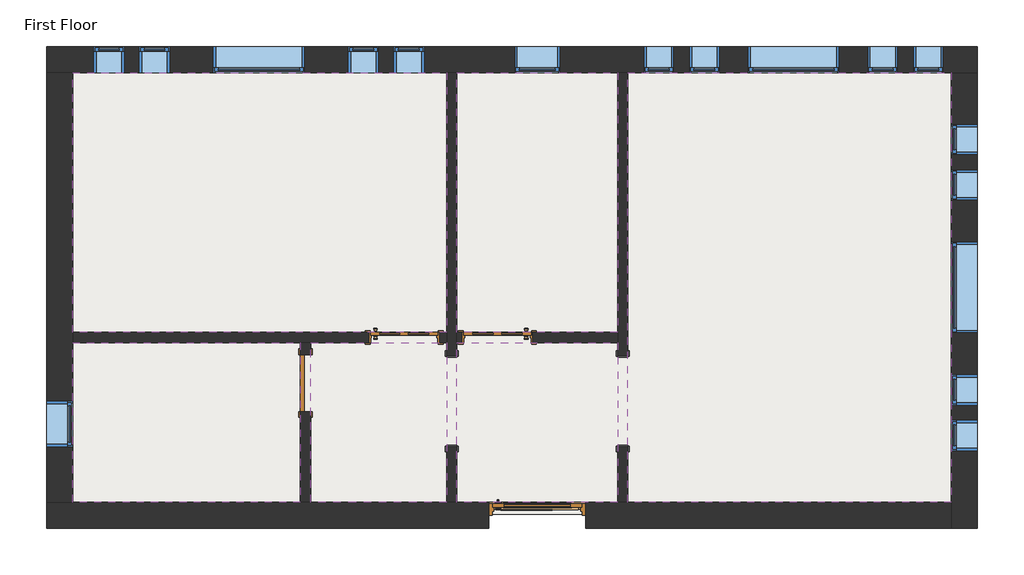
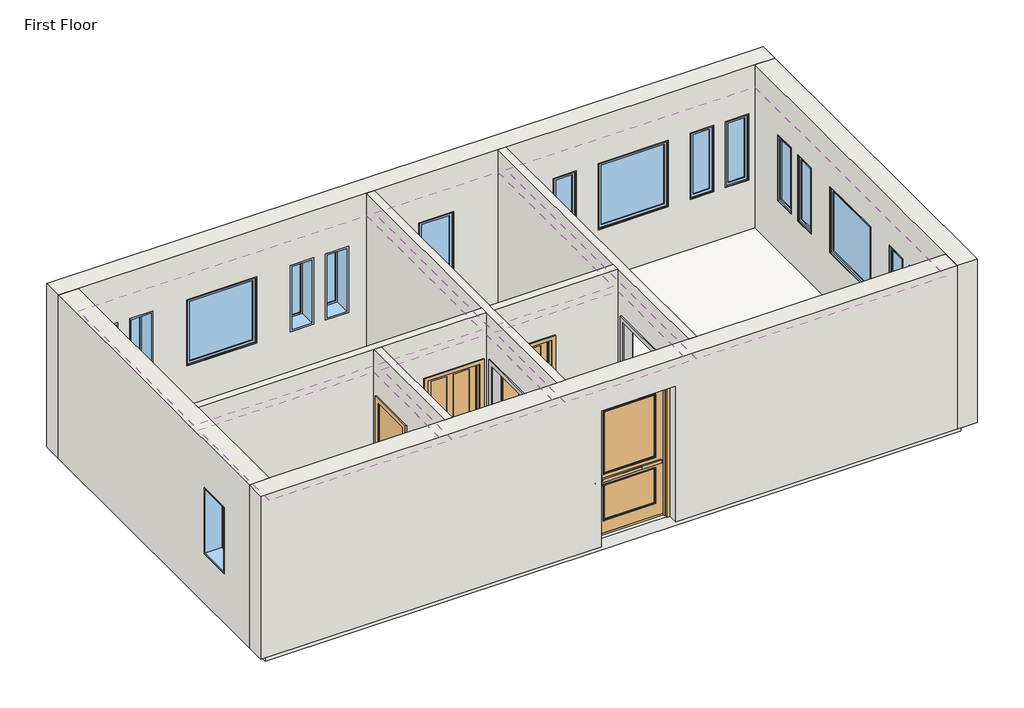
# One storey: 17 windows, 8 walls, 6 coverings, 4 doors, 2 proxies, 1 slab.
"""IFC4 building model written with IfcOpenShell, lengths in millimetres."""

from ifc_helpers import new_model, si_unit, frame, origin, place, context, project, spatial, polyline, outline, extrude, faceted_brep, transform, mapped, element, save
from components import m_passage_opening_cased_1220_x_2134_mm_87a8d9c2, m_door_exterior_single_two_lite_1200_x_2400mm_30e12bfc, m_door_interior_single_4_panel_wood_900_x_2100mm_1f4ed184, m_door_interior_single_4_panel_wood_900_x_2100mm_40914eee, m_single_flush_0762_x_2134mm_0d89e411, m_fixed_0406_x_1220mm_57fee329, m_fixed_0406_x_1220mm_85c28f40, m_fixed_0610_x_1220mm_2c28ef1d, m_fixed_1220_x_1220_e08ff7af

model = new_model("IFC4")

# Units and contexts
model_context = context("Model", 3, world=origin())
ifc_project = project(units=[si_unit("LENGTHUNIT", "METRE", prefix="MILLI")], contexts=[model_context])

# Site, building, storey
site = spatial("IfcSite", under=ifc_project)
building = spatial("IfcBuilding", under=site)
storey = spatial("IfcBuildingStorey", under=building, Name="First Floor", Elevation=0.0)

# Proxies
placement = place(None, origin())
m_passage_opening_cased_1220_x_2134_mm_shape = m_passage_opening_cased_1220_x_2134_mm_87a8d9c2(model_context)
element("IfcBuildingElementProxy", 1, Name="M_Passage Opening-Cased : 1220 x 2134 mm", ObjectType="M_Passage Opening-Cased : 1220 x 2134 mm", at=placement, inside=storey, context=model_context, shape_type="MappedRepresentation", body=[
    mapped(m_passage_opening_cased_1220_x_2134_mm_shape, transform((-10841.0930086, 9462.255705, 0.0), x_axis=(0.0, 1.0, 0.0), y_axis=(-1.0, 0.0, 0.0), z_axis=(0.0, 0.0, 1.0))),
])
element("IfcBuildingElementProxy", 2, Name="M_Passage Opening-Cased : 1220 x 2134 mm", ObjectType="M_Passage Opening-Cased : 1220 x 2134 mm", at=placement, inside=storey, context=model_context, shape_type="MappedRepresentation", body=[
    mapped(m_passage_opening_cased_1220_x_2134_mm_shape, transform((-13127.0930086, 9445.8783915, 0.0), x_axis=(0.0, -1.0, 0.0), y_axis=(1.0, 0.0, 0.0), z_axis=(0.0, 0.0, 1.0))),
])

# Coverings
element("IfcCovering", 3, ObjectType="Plain", at=placement, inside=storey, context=model_context, shape_type="SweptSolid", body=[
    extrude(outline(polyline([(-18201.8430086, 13851.0670483), (-13194.8430086, 13851.0670483), (-13194.8430086, 10374.5670483), (-18201.8430086, 10374.5670483), (-18201.8430086, 13851.0670483)])), frame((0.0, 0.0, 2590.0), z_axis=(0.0, 0.0, 1.0), x_axis=(1.0, 0.0, 0.0)), (0.0, 0.0, 1.0), 57.0),
])
element("IfcCovering", 4, ObjectType="Plain", at=placement, inside=storey, context=model_context, shape_type="SweptSolid", body=[
    extrude(outline(polyline([(-13059.3430086, 10374.5670483), (-13059.3430086, 13851.0670483), (-10908.8430086, 13851.0670483), (-10908.8430086, 10374.5670483), (-13059.3430086, 10374.5670483)])), frame((0.0, 0.0, 2590.0), z_axis=(0.0, 0.0, 1.0), x_axis=(1.0, 0.0, 0.0)), (0.0, 0.0, 1.0), 57.0),
])
element("IfcCovering", 5, ObjectType="Plain", at=placement, inside=storey, context=model_context, shape_type="SweptSolid", body=[
    extrude(outline(polyline([(-10773.3430086, 8105.0670483), (-10773.3430086, 13851.0670483), (-6444.0930086, 13851.0670483), (-6444.0930086, 8105.0670483), (-10773.3430086, 8105.0670483)])), frame((0.0, 0.0, 2590.0), z_axis=(0.0, 0.0, 1.0), x_axis=(1.0, 0.0, 0.0)), (0.0, 0.0, 1.0), 57.0),
])
element("IfcCovering", 6, ObjectType="Plain", at=placement, inside=storey, context=model_context, shape_type="SweptSolid", body=[
    extrude(outline(polyline([(-10908.8430086, 8105.0670483), (-13059.3430086, 8105.0670483), (-13059.3430086, 10239.0670483), (-10908.8430086, 10239.0670483), (-10908.8430086, 8105.0670483)])), frame((0.0, 0.0, 2590.0), z_axis=(0.0, 0.0, 1.0), x_axis=(1.0, 0.0, 0.0)), (0.0, 0.0, 1.0), 57.0),
])
element("IfcCovering", 7, ObjectType="Plain", at=placement, inside=storey, context=model_context, shape_type="SweptSolid", body=[
    extrude(outline(polyline([(-13194.8430086, 8105.0670483), (-15018.3430086, 8105.0670483), (-15018.3430086, 10239.0670483), (-13194.8430086, 10239.0670483), (-13194.8430086, 8105.0670483)])), frame((0.0, 0.0, 2590.0), z_axis=(0.0, 0.0, 1.0), x_axis=(1.0, 0.0, 0.0)), (0.0, 0.0, 1.0), 57.0),
])
element("IfcCovering", 8, ObjectType="Plain", at=placement, inside=storey, context=model_context, shape_type="SweptSolid", body=[
    extrude(outline(polyline([(-15153.8430086, 10239.0670483), (-15153.8430086, 8105.0670483), (-18201.8430086, 8105.0670483), (-18201.8430086, 10239.0670483), (-15153.8430086, 10239.0670483)])), frame((0.0, 0.0, 2590.0), z_axis=(0.0, 0.0, 1.0), x_axis=(1.0, 0.0, 0.0)), (0.0, 0.0, 1.0), 57.0),
])

# Doors
m_door_exterior_single_two_lite_1200_x_2400mm_shape = m_door_exterior_single_two_lite_1200_x_2400mm_30e12bfc(model_context)
element("IfcDoor", 9, ObjectType="M_Door-Exterior-Single-Two_Lite : 1200 x 2400mm", at=placement, inside=storey, context=model_context, shape_type="MappedRepresentation", body=[
    mapped(m_door_exterior_single_two_lite_1200_x_2400mm_shape, transform((-11984.0930086, 7923.7170483, 0.0), x_axis=(1.0, 0.0, 0.0), y_axis=(0.0, 1.0, 0.0), z_axis=(0.0, 0.0, 1.0))),
])
m_door_interior_single_4_panel_wood_900_x_2100mm_shape = m_door_interior_single_4_panel_wood_900_x_2100mm_1f4ed184(model_context)
element("IfcDoor", 10, ObjectType="M_Door-Interior-Single-4_Panel-Wood : 900 x 2100mm", at=placement, inside=storey, context=model_context, shape_type="MappedRepresentation", body=[
    mapped(m_door_interior_single_4_panel_wood_900_x_2100mm_shape, transform((-12518.0930086, 10309.9920483, 0.0), x_axis=(-1.0, 0.0, 0.0), y_axis=(0.0, -1.0, 0.0), z_axis=(0.0, 0.0, 1.0))),
])
m_door_interior_single_4_panel_wood_900_x_2100mm_2_shape = m_door_interior_single_4_panel_wood_900_x_2100mm_40914eee(model_context)
element("IfcDoor", 11, ObjectType="M_Door-Interior-Single-4_Panel-Wood : 900 x 2100mm", at=placement, inside=storey, context=model_context, shape_type="MappedRepresentation", body=[
    mapped(m_door_interior_single_4_panel_wood_900_x_2100mm_2_shape, transform((-13766.0930086, 10309.9920483, 0.0), x_axis=(1.0, 0.0, 0.0), y_axis=(0.0, 1.0, 0.0), z_axis=(0.0, 0.0, 1.0))),
])
m_single_flush_0762_x_2134mm_shape = m_single_flush_0762_x_2134mm_0d89e411(model_context)
element("IfcDoor", 12, ObjectType="M_Single-Flush : 0762 x 2134mm", at=placement, inside=storey, context=model_context, shape_type="MappedRepresentation", body=[
    mapped(m_single_flush_0762_x_2134mm_shape, transform((-15086.0930086, 9696.8170483, 0.0), x_axis=(0.0, 1.0, 0.0), y_axis=(-1.0, 0.0, 0.0), z_axis=(0.0, 0.0, 1.0))),
])

# Slab
element("IfcSlab", 13, ObjectType="160mm Concrete With 50mm Metal Deck", at=placement, inside=storey, context=model_context, shape_type="SweptSolid", body=[
    extrude(outline(polyline([(-6279.0930086, 14016.0670483), (-6279.0930086, 7940.0670483), (-18366.8430086, 7940.0670483), (-18366.8430086, 14016.0670483), (-6279.0930086, 14016.0670483)])), frame((0.0, 0.0, -210.0), z_axis=(0.0, 0.0, 1.0), x_axis=(1.0, 0.0, 0.0)), (0.0, 0.0, 1.0), 210.0),
])

# Walls
element("IfcWall", 14, ObjectType="Exterior - Brick on Mtl. Stud", at=placement, inside=storey, context=model_context, shape_type="Brep", body=[
    faceted_brep([(-18551.8430086, 13851.0670483, 0.0), (-18366.8430086, 13851.0670483, 0.0), (-18201.8430086, 13851.0670483, 0.0), (-13194.8430086, 13851.0670483, 0.0), (-13059.3430086, 13851.0670483, 0.0), (-10908.8430086, 13851.0670483, 0.0), (-10773.3430086, 13851.0670483, 0.0), (-6444.0930086, 13851.0670483, 0.0), (-6279.0930086, 13851.0670483, 0.0), (-6094.0930086, 13851.0670483, 0.0), (-6094.0930086, 13851.0670483, 3000.0), (-6444.0930086, 13851.0670483, 3000.0), (-10773.3430086, 13851.0670483, 3000.0), (-10908.8430086, 13851.0670483, 3000.0), (-13059.3430086, 13851.0670483, 3000.0), (-13194.8430086, 13851.0670483, 3000.0), (-18201.8430086, 13851.0670483, 3000.0), (-18551.8430086, 13851.0670483, 3000.0), (-11679.0930086, 13851.0670483, 915.0), (-12289.0930086, 13851.0670483, 915.0), (-12289.0930086, 13851.0670483, 2135.0), (-11679.0930086, 13851.0670483, 2135.0), (-15099.8430086, 13851.0670483, 915.0), (-16319.8430086, 13851.0670483, 915.0), (-16319.8430086, 13851.0670483, 2135.0), (-15099.8430086, 13851.0670483, 2135.0), (-7945.0930086, 13851.0670483, 915.0), (-9165.0930086, 13851.0670483, 915.0), (-9165.0930086, 13851.0670483, 2135.0), (-7945.0930086, 13851.0670483, 2135.0), (-17919.4430086, 13851.0670483, 915.0), (-17919.4430086, 13851.0670483, 2135.0), (-17513.4430086, 13851.0670483, 2135.0), (-17513.4430086, 13851.0670483, 915.0), (-17309.8430086, 13851.0670483, 915.0), (-17309.8430086, 13851.0670483, 2135.0), (-16903.8430086, 13851.0670483, 2135.0), (-16903.8430086, 13851.0670483, 915.0), (-14109.8430086, 13851.0670483, 915.0), (-14515.8430086, 13851.0670483, 915.0), (-14515.8430086, 13851.0670483, 2135.0), (-14109.8430086, 13851.0670483, 2135.0), (-13500.2430086, 13851.0670483, 915.0), (-13906.2430086, 13851.0670483, 915.0), (-13906.2430086, 13851.0670483, 2135.0), (-13500.2430086, 13851.0670483, 2135.0), (-10155.0930086, 13851.0670483, 915.0), (-10561.0930086, 13851.0670483, 915.0), (-10561.0930086, 13851.0670483, 2135.0), (-10155.0930086, 13851.0670483, 2135.0), (-9545.4930086, 13851.0670483, 915.0), (-9951.4930086, 13851.0670483, 915.0), (-9951.4930086, 13851.0670483, 2135.0), (-9545.4930086, 13851.0670483, 2135.0), (-6955.0930086, 13851.0670483, 915.0), (-6955.0930086, 13851.0670483, 2135.0), (-6549.0930086, 13851.0670483, 2135.0), (-6549.0930086, 13851.0670483, 915.0), (-7564.6930086, 13851.0670483, 915.0), (-7564.6930086, 13851.0670483, 2135.0), (-7158.6930086, 13851.0670483, 2135.0), (-7158.6930086, 13851.0670483, 915.0), (-18551.8430086, 14201.0670483, 0.0), (-18551.8430086, 14201.0670483, 3000.0), (-6094.0930086, 14201.0670483, 3000.0), (-6094.0930086, 14201.0670483, 0.0), (-6279.0930086, 14201.0670483, 0.0), (-18366.8430086, 14201.0670483, 0.0), (-11679.0930086, 14201.0670483, 915.0), (-11679.0930086, 14201.0670483, 2135.0), (-12289.0930086, 14201.0670483, 2135.0), (-12289.0930086, 14201.0670483, 915.0), (-15099.8430086, 14201.0670483, 915.0), (-15099.8430086, 14201.0670483, 2135.0), (-16319.8430086, 14201.0670483, 2135.0), (-16319.8430086, 14201.0670483, 915.0), (-7945.0930086, 14201.0670483, 915.0), (-7945.0930086, 14201.0670483, 2135.0), (-9165.0930086, 14201.0670483, 2135.0), (-9165.0930086, 14201.0670483, 915.0), (-17919.4430086, 14201.0670483, 915.0), (-17513.4430086, 14201.0670483, 915.0), (-17513.4430086, 14201.0670483, 2135.0), (-17919.4430086, 14201.0670483, 2135.0), (-17309.8430086, 14201.0670483, 915.0), (-16903.8430086, 14201.0670483, 915.0), (-16903.8430086, 14201.0670483, 2135.0), (-17309.8430086, 14201.0670483, 2135.0), (-14109.8430086, 14201.0670483, 915.0), (-14109.8430086, 14201.0670483, 2135.0), (-14515.8430086, 14201.0670483, 2135.0), (-14515.8430086, 14201.0670483, 915.0), (-13500.2430086, 14201.0670483, 915.0), (-13500.2430086, 14201.0670483, 2135.0), (-13906.2430086, 14201.0670483, 2135.0), (-13906.2430086, 14201.0670483, 915.0), (-10155.0930086, 14201.0670483, 915.0), (-10155.0930086, 14201.0670483, 2135.0), (-10561.0930086, 14201.0670483, 2135.0), (-10561.0930086, 14201.0670483, 915.0), (-9545.4930086, 14201.0670483, 915.0), (-9545.4930086, 14201.0670483, 2135.0), (-9951.4930086, 14201.0670483, 2135.0), (-9951.4930086, 14201.0670483, 915.0), (-6955.0930086, 14201.0670483, 915.0), (-6549.0930086, 14201.0670483, 915.0), (-6549.0930086, 14201.0670483, 2135.0), (-6955.0930086, 14201.0670483, 2135.0), (-7564.6930086, 14201.0670483, 915.0), (-7158.6930086, 14201.0670483, 915.0), (-7158.6930086, 14201.0670483, 2135.0), (-7564.6930086, 14201.0670483, 2135.0), (-6094.0930086, 14016.0670483, 0.0), (-18551.8430086, 14016.0670483, 0.0), (-18366.8430086, 14016.0670483, 0.0), (-6279.0930086, 14016.0670483, 0.0)], [[[0, 1, 2, 3, 4, 5, 6, 7, 8, 9, 10, 11, 12, 13, 14, 15, 16, 17], [18, 19, 20, 21], [22, 23, 24, 25], [26, 27, 28, 29], [30, 31, 32, 33], [34, 35, 36, 37], [38, 39, 40, 41], [42, 43, 44, 45], [46, 47, 48, 49], [50, 51, 52, 53], [54, 55, 56, 57], [58, 59, 60, 61]], [[62, 63, 64, 65, 66, 67], [68, 69, 70, 71], [72, 73, 74, 75], [76, 77, 78, 79], [80, 81, 82, 83], [84, 85, 86, 87], [88, 89, 90, 91], [92, 93, 94, 95], [96, 97, 98, 99], [100, 101, 102, 103], [104, 105, 106, 107], [108, 109, 110, 111]], [[17, 16, 15, 14, 13, 12, 11, 10, 64, 63]], [[10, 9, 112, 65, 64]], [[0, 17, 63, 62, 113]], [[69, 68, 18, 21]], [[70, 69, 21, 20]], [[71, 70, 20, 19]], [[68, 71, 19, 18]], [[73, 72, 22, 25]], [[74, 73, 25, 24]], [[75, 74, 24, 23]], [[72, 75, 23, 22]], [[77, 76, 26, 29]], [[78, 77, 29, 28]], [[79, 78, 28, 27]], [[76, 79, 27, 26]], [[31, 30, 80, 83]], [[32, 31, 83, 82]], [[33, 32, 82, 81]], [[30, 33, 81, 80]], [[35, 34, 84, 87]], [[36, 35, 87, 86]], [[37, 36, 86, 85]], [[34, 37, 85, 84]], [[89, 88, 38, 41]], [[90, 89, 41, 40]], [[91, 90, 40, 39]], [[88, 91, 39, 38]], [[93, 92, 42, 45]], [[94, 93, 45, 44]], [[95, 94, 44, 43]], [[92, 95, 43, 42]], [[97, 96, 46, 49]], [[98, 97, 49, 48]], [[99, 98, 48, 47]], [[96, 99, 47, 46]], [[101, 100, 50, 53]], [[102, 101, 53, 52]], [[103, 102, 52, 51]], [[100, 103, 51, 50]], [[55, 54, 104, 107]], [[56, 55, 107, 106]], [[57, 56, 106, 105]], [[54, 57, 105, 104]], [[59, 58, 108, 111]], [[60, 59, 111, 110]], [[61, 60, 110, 109]], [[58, 61, 109, 108]], [[1, 0, 113, 114]], [[113, 62, 67, 114]], [[9, 8, 115, 112]], [[67, 66, 115, 114]], [[66, 65, 112, 115]], [[8, 7, 6, 5, 4, 3, 2, 1, 114, 115]]]),
])
element("IfcWall", 15, ObjectType="Exterior - Brick on Mtl. Stud", at=placement, inside=storey, context=model_context, shape_type="Brep", body=[
    faceted_brep([(-6444.0930086, 13851.0670483, 0.0), (-6444.0930086, 8105.0670483, 0.0), (-6444.0930086, 7940.0670483, 0.0), (-6444.0930086, 7755.0670483, 0.0), (-6444.0930086, 7755.0670483, 3000.0), (-6444.0930086, 8105.0670483, 3000.0), (-6444.0930086, 13851.0670483, 3000.0), (-6444.0930086, 10368.0670483, 915.0), (-6444.0930086, 11588.0670483, 915.0), (-6444.0930086, 11588.0670483, 2135.0), (-6444.0930086, 10368.0670483, 2135.0), (-6444.0930086, 12756.2670483, 915.0), (-6444.0930086, 13162.2670483, 915.0), (-6444.0930086, 13162.2670483, 2135.0), (-6444.0930086, 12756.2670483, 2135.0), (-6444.0930086, 12146.6670483, 915.0), (-6444.0930086, 12552.6670483, 915.0), (-6444.0930086, 12552.6670483, 2135.0), (-6444.0930086, 12146.6670483, 2135.0), (-6444.0930086, 9199.8670483, 915.0), (-6444.0930086, 9199.8670483, 2135.0), (-6444.0930086, 8793.8670483, 2135.0), (-6444.0930086, 8793.8670483, 915.0), (-6444.0930086, 9809.4670483, 915.0), (-6444.0930086, 9809.4670483, 2135.0), (-6444.0930086, 9403.4670483, 2135.0), (-6444.0930086, 9403.4670483, 915.0), (-6094.0930086, 13851.0670483, 0.0), (-6094.0930086, 13851.0670483, 3000.0), (-6094.0930086, 7755.0670483, 3000.0), (-6094.0930086, 7755.0670483, 0.0), (-6094.0930086, 7940.0670483, 0.0), (-6094.0930086, 10368.0670483, 915.0), (-6094.0930086, 10368.0670483, 2135.0), (-6094.0930086, 11588.0670483, 2135.0), (-6094.0930086, 11588.0670483, 915.0), (-6094.0930086, 12756.2670483, 915.0), (-6094.0930086, 12756.2670483, 2135.0), (-6094.0930086, 13162.2670483, 2135.0), (-6094.0930086, 13162.2670483, 915.0), (-6094.0930086, 12146.6670483, 915.0), (-6094.0930086, 12146.6670483, 2135.0), (-6094.0930086, 12552.6670483, 2135.0), (-6094.0930086, 12552.6670483, 915.0), (-6094.0930086, 9199.8670483, 915.0), (-6094.0930086, 8793.8670483, 915.0), (-6094.0930086, 8793.8670483, 2135.0), (-6094.0930086, 9199.8670483, 2135.0), (-6094.0930086, 9809.4670483, 915.0), (-6094.0930086, 9403.4670483, 915.0), (-6094.0930086, 9403.4670483, 2135.0), (-6094.0930086, 9809.4670483, 2135.0), (-6279.0930086, 13851.0670483, 0.0), (-6279.0930086, 7755.0670483, 0.0), (-6279.0930086, 7940.0670483, 0.0)], [[[0, 1, 2, 3, 4, 5, 6], [7, 8, 9, 10], [11, 12, 13, 14], [15, 16, 17, 18], [19, 20, 21, 22], [23, 24, 25, 26]], [[27, 28, 29, 30, 31], [32, 33, 34, 35], [36, 37, 38, 39], [40, 41, 42, 43], [44, 45, 46, 47], [48, 49, 50, 51]], [[6, 5, 4, 29, 28]], [[0, 6, 28, 27, 52]], [[4, 3, 53, 30, 29]], [[33, 32, 7, 10]], [[34, 33, 10, 9]], [[35, 34, 9, 8]], [[32, 35, 8, 7]], [[37, 36, 11, 14]], [[38, 37, 14, 13]], [[39, 38, 13, 12]], [[36, 39, 12, 11]], [[41, 40, 15, 18]], [[42, 41, 18, 17]], [[43, 42, 17, 16]], [[40, 43, 16, 15]], [[20, 19, 44, 47]], [[21, 20, 47, 46]], [[22, 21, 46, 45]], [[19, 22, 45, 44]], [[24, 23, 48, 51]], [[25, 24, 51, 50]], [[26, 25, 50, 49]], [[23, 26, 49, 48]], [[52, 27, 31, 54]], [[3, 2, 54, 53]], [[54, 31, 30, 53]], [[2, 1, 0, 52, 54]]]),
])
element("IfcWall", 16, ObjectType="Exterior - Brick on Mtl. Stud", at=placement, inside=storey, context=model_context, shape_type="Brep", body=[
    faceted_brep([(-18551.8430086, 8105.0670483, 3000.0), (-18201.8430086, 8105.0670483, 3000.0), (-15153.8430086, 8105.0670483, 3000.0), (-15018.3430086, 8105.0670483, 3000.0), (-13194.8430086, 8105.0670483, 3000.0), (-13059.3430086, 8105.0670483, 3000.0), (-10908.8430086, 8105.0670483, 3000.0), (-10773.3430086, 8105.0670483, 3000.0), (-6444.0930086, 8105.0670483, 3000.0), (-6444.0930086, 8105.0670483, 0.0), (-10773.3430086, 8105.0670483, 0.0), (-10908.8430086, 8105.0670483, 0.0), (-11334.0930086, 8105.0670483, 0.0), (-11334.0930086, 8105.0670483, 2500.0), (-12634.0930086, 8105.0670483, 2500.0), (-12634.0930086, 8105.0670483, 0.0), (-13059.3430086, 8105.0670483, 0.0), (-13194.8430086, 8105.0670483, 0.0), (-15018.3430086, 8105.0670483, 0.0), (-15153.8430086, 8105.0670483, 0.0), (-18201.8430086, 8105.0670483, 0.0), (-18551.8430086, 8105.0670483, 0.0), (-6444.0930086, 7755.0670483, 3000.0), (-18551.8430086, 7755.0670483, 3000.0), (-18551.8430086, 7755.0670483, 0.0), (-12634.0930086, 7755.0670483, 0.0), (-12634.0930086, 7755.0670483, 2500.0), (-11334.0930086, 7755.0670483, 2500.0), (-11334.0930086, 7755.0670483, 0.0), (-6444.0930086, 7755.0670483, 0.0)], [[[0, 1, 2, 3, 4, 5, 6, 7, 8, 9, 10, 11, 12, 13, 14, 15, 16, 17, 18, 19, 20, 21]], [[22, 23, 24, 25, 26, 27, 28, 29]], [[9, 29, 28, 12, 11, 10]], [[24, 21, 20, 19, 18, 17, 16, 15, 25]], [[8, 7, 6, 5, 4, 3, 2, 1, 0, 23, 22]], [[9, 8, 22, 29]], [[0, 21, 24, 23]], [[27, 13, 12, 28]], [[13, 27, 26, 14]], [[14, 26, 25, 15]]]),
])
element("IfcWall", 17, ObjectType="Exterior - Brick on Mtl. Stud", at=placement, inside=storey, context=model_context, shape_type="Brep", body=[
    faceted_brep([(-18201.8430086, 8105.0670483, 0.0), (-18201.8430086, 10239.0670483, 0.0), (-18201.8430086, 10374.5670483, 0.0), (-18201.8430086, 13851.0670483, 0.0), (-18201.8430086, 13851.0670483, 3000.0), (-18201.8430086, 10374.5670483, 3000.0), (-18201.8430086, 10239.0670483, 3000.0), (-18201.8430086, 8105.0670483, 3000.0), (-18201.8430086, 9455.0670483, 915.0), (-18201.8430086, 8845.0670483, 915.0), (-18201.8430086, 8845.0670483, 2135.0), (-18201.8430086, 9455.0670483, 2135.0), (-18551.8430086, 8105.0670483, 0.0), (-18551.8430086, 8105.0670483, 3000.0), (-18551.8430086, 13851.0670483, 3000.0), (-18551.8430086, 13851.0670483, 0.0), (-18551.8430086, 9455.0670483, 915.0), (-18551.8430086, 9455.0670483, 2135.0), (-18551.8430086, 8845.0670483, 2135.0), (-18551.8430086, 8845.0670483, 915.0), (-18366.8430086, 8105.0670483, 0.0), (-18366.8430086, 13851.0670483, 0.0)], [[[0, 1, 2, 3, 4, 5, 6, 7], [8, 9, 10, 11]], [[12, 13, 14, 15], [16, 17, 18, 19]], [[7, 6, 5, 4, 14, 13]], [[0, 7, 13, 12, 20]], [[4, 3, 21, 15, 14]], [[17, 16, 8, 11]], [[18, 17, 11, 10]], [[19, 18, 10, 9]], [[16, 19, 9, 8]], [[20, 12, 15, 21]], [[3, 2, 1, 0, 20, 21]]]),
])
element("IfcWall", 18, ObjectType="Interior - 135mm Partition (2-hr)", at=placement, inside=storey, context=model_context, shape_type="Brep", body=[
    faceted_brep([(-10908.8430086, 13851.0670483, 0.0), (-10908.8430086, 10374.5670483, 0.0), (-10908.8430086, 10239.0670483, 0.0), (-10908.8430086, 10064.0670483, 0.0), (-10908.8430086, 10064.0670483, 2134.0), (-10908.8430086, 8844.0670483, 2134.0), (-10908.8430086, 8844.0670483, 0.0), (-10908.8430086, 8105.0670483, 0.0), (-10908.8430086, 8105.0670483, 3000.0), (-10908.8430086, 10239.0670483, 3000.0), (-10908.8430086, 10374.5670483, 3000.0), (-10908.8430086, 13851.0670483, 3000.0), (-10773.3430086, 10064.0670483, 2134.0), (-10773.3430086, 10064.0670483, 0.0), (-10773.3430086, 13851.0670483, 0.0), (-10773.3430086, 13851.0670483, 3000.0), (-10773.3430086, 8105.0670483, 3000.0), (-10773.3430086, 8105.0670483, 0.0), (-10773.3430086, 8844.0670483, 0.0), (-10773.3430086, 8844.0670483, 2134.0)], [[[0, 1, 2, 3, 4, 5, 6, 7, 8, 9, 10, 11]], [[12, 13, 14, 15, 16, 17, 18, 19]], [[18, 17, 7, 6]], [[14, 13, 3, 2, 1, 0]], [[11, 10, 9, 8, 16, 15]], [[0, 11, 15, 14]], [[8, 7, 17, 16]], [[6, 5, 19, 18]], [[4, 3, 13, 12]], [[5, 4, 12, 19]]]),
])
element("IfcWall", 19, ObjectType="Interior - 135mm Partition (2-hr)", at=placement, inside=storey, context=model_context, shape_type="Brep", body=[
    faceted_brep([(-13194.8430086, 8105.0670483, 3000.0), (-13194.8430086, 10239.0670483, 3000.0), (-13194.8430086, 10374.5670483, 3000.0), (-13194.8430086, 13851.0670483, 3000.0), (-13194.8430086, 13851.0670483, 0.0), (-13194.8430086, 10374.5670483, 0.0), (-13194.8430086, 10239.0670483, 0.0), (-13194.8430086, 10064.0670483, 0.0), (-13194.8430086, 10064.0670483, 2134.0), (-13194.8430086, 8844.0670483, 2134.0), (-13194.8430086, 8844.0670483, 0.0), (-13194.8430086, 8105.0670483, 0.0), (-13059.3430086, 13851.0670483, 3000.0), (-13059.3430086, 10374.5670483, 3000.0), (-13059.3430086, 10239.0670483, 3000.0), (-13059.3430086, 8105.0670483, 3000.0), (-13059.3430086, 8105.0670483, 0.0), (-13059.3430086, 8844.0670483, 0.0), (-13059.3430086, 8844.0670483, 2134.0), (-13059.3430086, 10064.0670483, 2134.0), (-13059.3430086, 10064.0670483, 0.0), (-13059.3430086, 10239.0670483, 0.0), (-13059.3430086, 10374.5670483, 0.0), (-13059.3430086, 13851.0670483, 0.0)], [[[0, 1, 2, 3, 4, 5, 6, 7, 8, 9, 10, 11]], [[12, 13, 14, 15, 16, 17, 18, 19, 20, 21, 22, 23]], [[4, 23, 22, 21, 20, 7, 6, 5]], [[16, 11, 10, 17]], [[3, 2, 1, 0, 15, 14, 13, 12]], [[4, 3, 12, 23]], [[0, 11, 16, 15]], [[19, 8, 7, 20]], [[9, 18, 17, 10]], [[8, 19, 18, 9]]]),
])
element("IfcWall", 20, ObjectType="Interior - 135mm Partition (2-hr)", at=placement, inside=storey, context=model_context, shape_type="Brep", body=[
    faceted_brep([(-18201.8430086, 10239.0670483, 3000.0), (-18201.8430086, 10239.0670483, 0.0), (-15153.8430086, 10239.0670483, 0.0), (-15018.3430086, 10239.0670483, 0.0), (-14241.0930086, 10239.0670483, 0.0), (-14241.0930086, 10239.0670483, 2125.0), (-13291.0930086, 10239.0670483, 2125.0), (-13291.0930086, 10239.0670483, 0.0), (-13194.8430086, 10239.0670483, 0.0), (-13194.8430086, 10239.0670483, 3000.0), (-15018.3430086, 10239.0670483, 3000.0), (-15153.8430086, 10239.0670483, 3000.0), (-18201.8430086, 10374.5670483, 0.0), (-18201.8430086, 10374.5670483, 3000.0), (-13194.8430086, 10374.5670483, 3000.0), (-13194.8430086, 10374.5670483, 0.0), (-13291.0930086, 10374.5670483, 0.0), (-13291.0930086, 10374.5670483, 2125.0), (-14241.0930086, 10374.5670483, 2125.0), (-14241.0930086, 10374.5670483, 0.0)], [[[0, 1, 2, 3, 4, 5, 6, 7, 8, 9, 10, 11]], [[12, 13, 14, 15, 16, 17, 18, 19]], [[1, 12, 19, 4, 3, 2]], [[7, 16, 15, 8]], [[13, 0, 11, 10, 9, 14]], [[1, 0, 13, 12]], [[9, 8, 15, 14]], [[6, 17, 16, 7]], [[17, 6, 5, 18]], [[18, 5, 4, 19]]]),
    faceted_brep([(-10908.8430086, 10239.0670483, 0.0), (-10908.8430086, 10239.0670483, 3000.0), (-13059.3430086, 10239.0670483, 3000.0), (-13059.3430086, 10239.0670483, 0.0), (-12993.0930086, 10239.0670483, 0.0), (-12993.0930086, 10239.0670483, 2125.0), (-12043.0930086, 10239.0670483, 2125.0), (-12043.0930086, 10239.0670483, 0.0), (-10908.8430086, 10374.5670483, 3000.0), (-10908.8430086, 10374.5670483, 0.0), (-12043.0930086, 10374.5670483, 0.0), (-12043.0930086, 10374.5670483, 2125.0), (-12993.0930086, 10374.5670483, 2125.0), (-12993.0930086, 10374.5670483, 0.0), (-13059.3430086, 10374.5670483, 0.0), (-13059.3430086, 10374.5670483, 3000.0)], [[[0, 1, 2, 3, 4, 5, 6, 7]], [[8, 9, 10, 11, 12, 13, 14, 15]], [[9, 0, 7, 10]], [[13, 4, 3, 14]], [[1, 8, 15, 2]], [[1, 0, 9, 8]], [[3, 2, 15, 14]], [[5, 4, 13, 12]], [[6, 5, 12, 11]], [[7, 6, 11, 10]]]),
])
element("IfcWall", 21, ObjectType="Interior - 135mm Partition (2-hr)", at=placement, inside=storey, context=model_context, shape_type="SweptSolid", body=[
    extrude(outline(polyline([(10239.0670483, 0.0), (10077.8170483, 0.0), (10077.8170483, 2134.0), (9315.8170483, 2134.0), (9315.8170483, 0.0), (8105.0670483, 0.0), (8105.0670483, 3000.0), (10239.0670483, 3000.0), (10239.0670483, 0.0)])), frame((-15153.8430086, 0.0, 0.0), z_axis=(1.0, 0.0, 0.0), x_axis=(0.0, 1.0, 0.0)), (0.0, 0.0, 1.0), 135.5),
])

# Windows
m_fixed_0406_x_1220mm_shape = m_fixed_0406_x_1220mm_57fee329(model_context)
element("IfcWindow", 22, ObjectType="M_Fixed : 0406 x 1220mm", at=placement, inside=storey, context=model_context, shape_type="MappedRepresentation", body=[
    mapped(m_fixed_0406_x_1220mm_shape, transform((-17716.4430086, 14013.0670483, 0.0), x_axis=(1.0, 0.0, 0.0), y_axis=(0.0, 1.0, 0.0), z_axis=(0.0, 0.0, 1.0))),
])
element("IfcWindow", 23, ObjectType="M_Fixed : 0406 x 1220mm", at=placement, inside=storey, context=model_context, shape_type="MappedRepresentation", body=[
    mapped(m_fixed_0406_x_1220mm_shape, transform((-17106.8430086, 14013.0670483, 0.0), x_axis=(1.0, 0.0, 0.0), y_axis=(0.0, 1.0, 0.0), z_axis=(0.0, 0.0, 1.0))),
])
element("IfcWindow", 24, ObjectType="M_Fixed : 0406 x 1220mm", at=placement, inside=storey, context=model_context, shape_type="MappedRepresentation", body=[
    mapped(m_fixed_0406_x_1220mm_shape, transform((-9748.4930086, 14039.0670483, 0.0), x_axis=(-1.0, 0.0, 0.0), y_axis=(0.0, -1.0, 0.0), z_axis=(0.0, 0.0, 1.0))),
])
element("IfcWindow", 25, ObjectType="M_Fixed : 0406 x 1220mm", at=placement, inside=storey, context=model_context, shape_type="MappedRepresentation", body=[
    mapped(m_fixed_0406_x_1220mm_shape, transform((-10358.0930086, 14039.0670483, 0.0), x_axis=(-1.0, 0.0, 0.0), y_axis=(0.0, -1.0, 0.0), z_axis=(0.0, 0.0, 1.0))),
])
element("IfcWindow", 26, ObjectType="M_Fixed : 0406 x 1220mm", at=placement, inside=storey, context=model_context, shape_type="MappedRepresentation", body=[
    mapped(m_fixed_0406_x_1220mm_shape, transform((-6256.0930086, 12349.6670483, 0.0), x_axis=(0.0, 1.0, 0.0), y_axis=(-1.0, 0.0, 0.0), z_axis=(0.0, 0.0, 1.0))),
])
element("IfcWindow", 27, ObjectType="M_Fixed : 0406 x 1220mm", at=placement, inside=storey, context=model_context, shape_type="MappedRepresentation", body=[
    mapped(m_fixed_0406_x_1220mm_shape, transform((-6256.0930086, 12959.2670483, 0.0), x_axis=(0.0, 1.0, 0.0), y_axis=(-1.0, 0.0, 0.0), z_axis=(0.0, 0.0, 1.0))),
])
m_fixed_0406_x_1220mm_2_shape = m_fixed_0406_x_1220mm_85c28f40(model_context)
element("IfcWindow", 28, ObjectType="M_Fixed : 0406 x 1220mm", at=placement, inside=storey, context=model_context, shape_type="MappedRepresentation", body=[
    mapped(m_fixed_0406_x_1220mm_2_shape, transform((-13703.2430086, 14013.0670483, 0.0), x_axis=(-1.0, 0.0, 0.0), y_axis=(0.0, -1.0, 0.0), z_axis=(0.0, 0.0, 1.0))),
])
element("IfcWindow", 29, ObjectType="M_Fixed : 0406 x 1220mm", at=placement, inside=storey, context=model_context, shape_type="MappedRepresentation", body=[
    mapped(m_fixed_0406_x_1220mm_2_shape, transform((-14312.8430086, 14013.0670483, 0.0), x_axis=(-1.0, 0.0, 0.0), y_axis=(0.0, -1.0, 0.0), z_axis=(0.0, 0.0, 1.0))),
])
element("IfcWindow", 30, ObjectType="M_Fixed : 0406 x 1220mm", at=placement, inside=storey, context=model_context, shape_type="MappedRepresentation", body=[
    mapped(m_fixed_0406_x_1220mm_2_shape, transform((-7361.6930086, 14039.0670483, 0.0), x_axis=(1.0, 0.0, 0.0), y_axis=(0.0, 1.0, 0.0), z_axis=(0.0, 0.0, 1.0))),
])
element("IfcWindow", 31, ObjectType="M_Fixed : 0406 x 1220mm", at=placement, inside=storey, context=model_context, shape_type="MappedRepresentation", body=[
    mapped(m_fixed_0406_x_1220mm_2_shape, transform((-6752.0930086, 14039.0670483, 0.0), x_axis=(1.0, 0.0, 0.0), y_axis=(0.0, 1.0, 0.0), z_axis=(0.0, 0.0, 1.0))),
])
element("IfcWindow", 32, ObjectType="M_Fixed : 0406 x 1220mm", at=placement, inside=storey, context=model_context, shape_type="MappedRepresentation", body=[
    mapped(m_fixed_0406_x_1220mm_2_shape, transform((-6256.0930086, 9606.4670483, 0.0), x_axis=(0.0, -1.0, 0.0), y_axis=(1.0, 0.0, 0.0), z_axis=(0.0, 0.0, 1.0))),
])
element("IfcWindow", 33, ObjectType="M_Fixed : 0406 x 1220mm", at=placement, inside=storey, context=model_context, shape_type="MappedRepresentation", body=[
    mapped(m_fixed_0406_x_1220mm_2_shape, transform((-6256.0930086, 8996.8670483, 0.0), x_axis=(0.0, -1.0, 0.0), y_axis=(1.0, 0.0, 0.0), z_axis=(0.0, 0.0, 1.0))),
])
m_fixed_0610_x_1220mm_shape = m_fixed_0610_x_1220mm_2c28ef1d(model_context)
element("IfcWindow", 34, ObjectType="M_Fixed : 0610 x 1220mm", at=placement, inside=storey, context=model_context, shape_type="MappedRepresentation", body=[
    mapped(m_fixed_0610_x_1220mm_shape, transform((-11984.0930086, 14039.0670483, 0.0), x_axis=(-1.0, 0.0, 0.0), y_axis=(0.0, -1.0, 0.0), z_axis=(0.0, 0.0, 1.0))),
])
element("IfcWindow", 35, ObjectType="M_Fixed : 0610 x 1220mm", at=placement, inside=storey, context=model_context, shape_type="MappedRepresentation", body=[
    mapped(m_fixed_0610_x_1220mm_shape, transform((-18389.8430086, 9150.0670483, 0.0), x_axis=(0.0, -1.0, 0.0), y_axis=(1.0, 0.0, 0.0), z_axis=(0.0, 0.0, 1.0))),
])
m_fixed_1220_x_1220_shape = m_fixed_1220_x_1220_e08ff7af(model_context)
element("IfcWindow", 36, ObjectType="M_Fixed : 1220 x 1220", at=placement, inside=storey, context=model_context, shape_type="MappedRepresentation", body=[
    mapped(m_fixed_1220_x_1220_shape, transform((-15709.8430086, 14039.0670483, 0.0), x_axis=(-1.0, 0.0, 0.0), y_axis=(0.0, -1.0, 0.0), z_axis=(0.0, 0.0, 1.0))),
])
element("IfcWindow", 37, ObjectType="M_Fixed : 1220 x 1220", at=placement, inside=storey, context=model_context, shape_type="MappedRepresentation", body=[
    mapped(m_fixed_1220_x_1220_shape, transform((-8555.0930086, 14039.0670483, 0.0), x_axis=(-1.0, 0.0, 0.0), y_axis=(0.0, -1.0, 0.0), z_axis=(0.0, 0.0, 1.0))),
])
element("IfcWindow", 38, ObjectType="M_Fixed : 1220 x 1220", at=placement, inside=storey, context=model_context, shape_type="MappedRepresentation", body=[
    mapped(m_fixed_1220_x_1220_shape, transform((-6256.0930086, 10978.0670483, 0.0), x_axis=(0.0, 1.0, 0.0), y_axis=(-1.0, 0.0, 0.0), z_axis=(0.0, 0.0, 1.0))),
])

save(model, "model.ifc")
